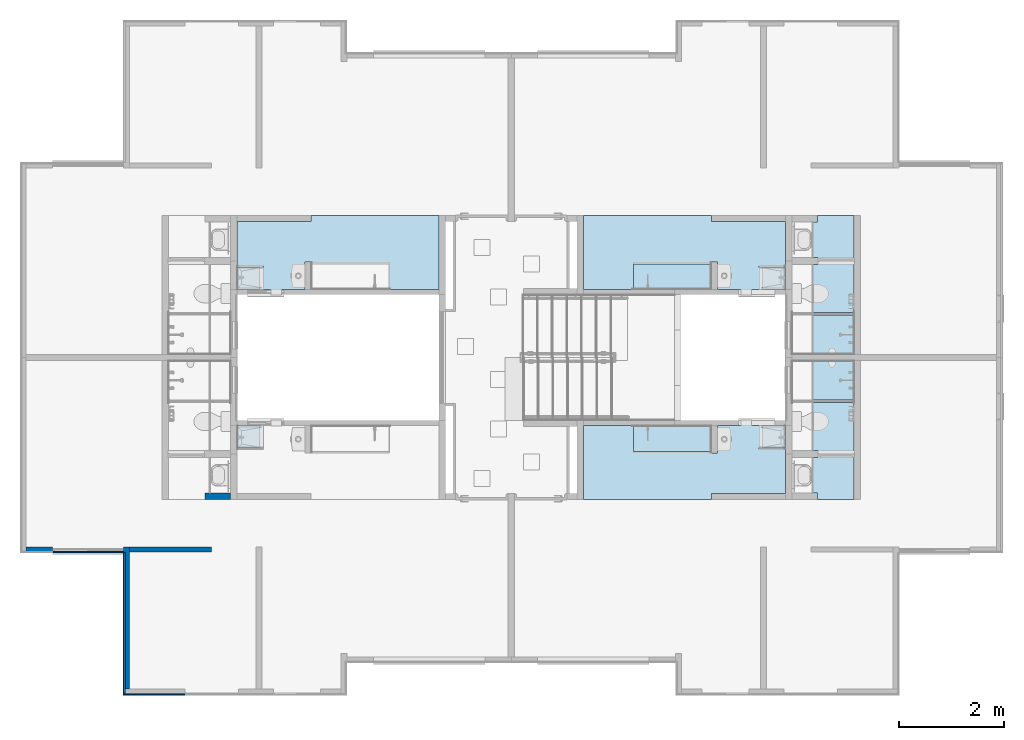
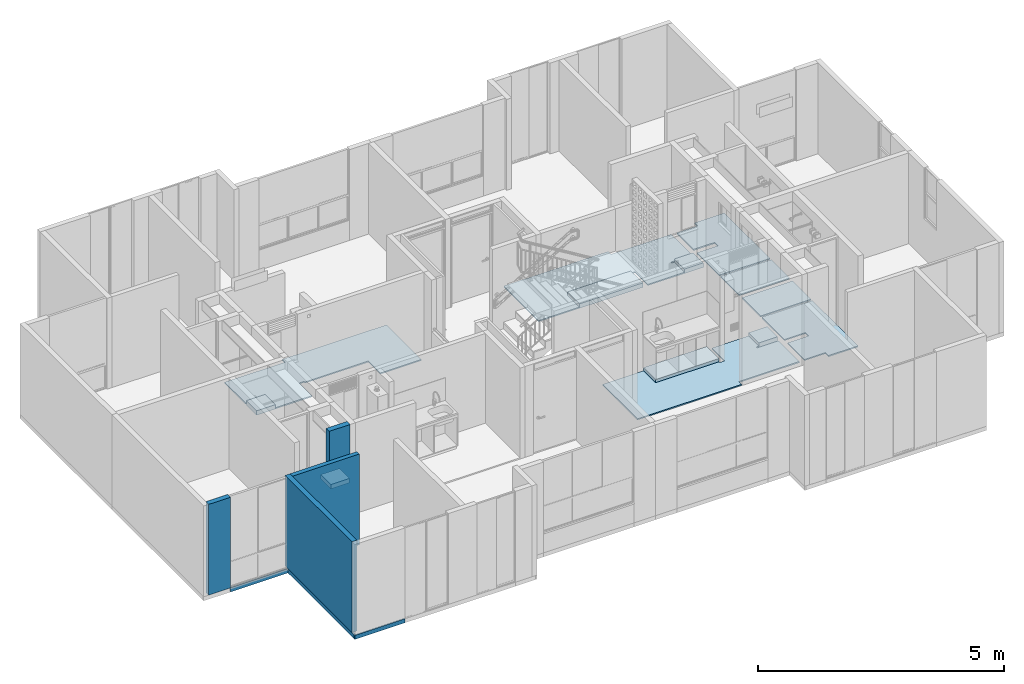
# One storey, part 3 of 48: 11 slabs, 7 walls.
"""IFC4 building model written with IfcOpenShell, lengths in metres."""

from ifc_helpers import new_model, entity, si_unit, converted_unit, derived_unit, direction, frame, origin, place, context, subcontext, project, spatial, indexed_curve, outline, extrude, material, constituent, constituent_set, type_object, element, save


model = new_model("IFC4")

# Units and contexts
model_context = context("Model", 3, precision=1e-05, world=origin(), true_north=direction((6.123031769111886e-17, 1.0)))
body_context = subcontext(model_context, "Body", "Model", "MODEL_VIEW")
ifc_project = project(units=[si_unit("LENGTHUNIT", "METRE"), si_unit("AREAUNIT", "SQUARE_METRE"), si_unit("VOLUMEUNIT", "CUBIC_METRE"), converted_unit("PLANEANGLEUNIT", "DEGREE", entity("IfcRatioMeasure", 0.017453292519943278), si_unit("PLANEANGLEUNIT", "RADIAN"), dimensions=[0, 0, 0, 0, 0, 0, 0]), si_unit("MASSUNIT", "GRAM", prefix="KILO"), derived_unit("MASSDENSITYUNIT", [(si_unit("MASSUNIT", "GRAM", prefix="KILO"), 1), (si_unit("LENGTHUNIT", "METRE"), -3)]), derived_unit("IONCONCENTRATIONUNIT", [(si_unit("MASSUNIT", "GRAM", prefix="KILO"), 1), (si_unit("LENGTHUNIT", "METRE"), -3)]), derived_unit("MOMENTOFINERTIAUNIT", [(si_unit("LENGTHUNIT", "METRE"), 4)]), si_unit("TIMEUNIT", "SECOND"), si_unit("FREQUENCYUNIT", "HERTZ"), si_unit("THERMODYNAMICTEMPERATUREUNIT", "DEGREE_CELSIUS"), derived_unit("THERMALTRANSMITTANCEUNIT", [(si_unit("MASSUNIT", "GRAM", prefix="KILO"), 1), (si_unit("THERMODYNAMICTEMPERATUREUNIT", "KELVIN"), -1), (si_unit("TIMEUNIT", "SECOND"), -3)]), derived_unit("THERMALCONDUCTANCEUNIT", [(si_unit("MASSUNIT", "GRAM", prefix="KILO"), 1), (si_unit("THERMODYNAMICTEMPERATUREUNIT", "KELVIN"), -1), (si_unit("TIMEUNIT", "SECOND"), -3), (si_unit("LENGTHUNIT", "METRE"), 1)]), derived_unit("VOLUMETRICFLOWRATEUNIT", [(si_unit("LENGTHUNIT", "METRE"), 3), (si_unit("TIMEUNIT", "SECOND"), -1)]), derived_unit("MASSFLOWRATEUNIT", [(si_unit("MASSUNIT", "GRAM", prefix="KILO"), 1), (si_unit("TIMEUNIT", "SECOND"), -1)]), derived_unit("ROTATIONALFREQUENCYUNIT", [(si_unit("TIMEUNIT", "SECOND"), -1)]), si_unit("ELECTRICCURRENTUNIT", "AMPERE"), si_unit("ELECTRICVOLTAGEUNIT", "VOLT"), si_unit("POWERUNIT", "WATT"), si_unit("FORCEUNIT", "NEWTON", prefix="KILO"), si_unit("ILLUMINANCEUNIT", "LUX"), si_unit("LUMINOUSFLUXUNIT", "LUMEN"), si_unit("LUMINOUSINTENSITYUNIT", "CANDELA"), derived_unit("USERDEFINED", [(si_unit("MASSUNIT", "GRAM", prefix="KILO"), -1), (si_unit("LENGTHUNIT", "METRE"), -2), (si_unit("TIMEUNIT", "SECOND"), 3), (si_unit("LUMINOUSFLUXUNIT", "LUMEN"), 1)]), derived_unit("USERDEFINED", [(si_unit("MASSUNIT", "GRAM", prefix="KILO"), 1), (si_unit("TIMEUNIT", "SECOND"), -3), (si_unit("LENGTHUNIT", "METRE"), 3), (si_unit("ELECTRICCURRENTUNIT", "AMPERE"), -2)]), derived_unit("SOUNDPOWERUNIT", [(si_unit("MASSUNIT", "GRAM", prefix="KILO"), 1), (si_unit("TIMEUNIT", "SECOND"), -3), (si_unit("LENGTHUNIT", "METRE"), 2)]), derived_unit("SOUNDPRESSUREUNIT", [(si_unit("MASSUNIT", "GRAM", prefix="KILO"), 1), (si_unit("LENGTHUNIT", "METRE"), -1), (si_unit("TIMEUNIT", "SECOND"), -2)]), derived_unit("LINEARVELOCITYUNIT", [(si_unit("LENGTHUNIT", "METRE"), 1), (si_unit("TIMEUNIT", "SECOND"), -1)]), si_unit("PRESSUREUNIT", "PASCAL"), derived_unit("USERDEFINED", [(si_unit("MASSUNIT", "GRAM", prefix="KILO"), 1), (si_unit("LENGTHUNIT", "METRE"), -2), (si_unit("TIMEUNIT", "SECOND"), -2)]), derived_unit("LINEARFORCEUNIT", [(si_unit("MASSUNIT", "GRAM", prefix="KILO"), 1), (si_unit("TIMEUNIT", "SECOND"), -2)]), derived_unit("PLANARFORCEUNIT", [(si_unit("MASSUNIT", "GRAM", prefix="KILO"), 1), (si_unit("LENGTHUNIT", "METRE"), -1), (si_unit("TIMEUNIT", "SECOND"), -2)]), derived_unit("SPECIFICHEATCAPACITYUNIT", [(si_unit("THERMODYNAMICTEMPERATUREUNIT", "KELVIN"), -1), (si_unit("LENGTHUNIT", "METRE"), 2), (si_unit("TIMEUNIT", "SECOND"), -2)]), derived_unit("HEATINGVALUEUNIT", [(si_unit("LENGTHUNIT", "METRE"), 2), (si_unit("TIMEUNIT", "SECOND"), -2)]), derived_unit("VAPORPERMEABILITYUNIT", [(si_unit("LENGTHUNIT", "METRE"), -1), (si_unit("TIMEUNIT", "SECOND"), 1)]), derived_unit("DYNAMICVISCOSITYUNIT", [(si_unit("MASSUNIT", "GRAM", prefix="KILO"), 1), (si_unit("TIMEUNIT", "SECOND"), -1), (si_unit("LENGTHUNIT", "METRE"), -1)]), derived_unit("THERMALEXPANSIONCOEFFICIENTUNIT", [(si_unit("THERMODYNAMICTEMPERATUREUNIT", "KELVIN"), -1)]), derived_unit("MODULUSOFELASTICITYUNIT", [(si_unit("MASSUNIT", "GRAM", prefix="KILO"), 1), (si_unit("LENGTHUNIT", "METRE"), -1), (si_unit("TIMEUNIT", "SECOND"), -2)]), derived_unit("ISOTHERMALMOISTURECAPACITYUNIT", [(si_unit("LENGTHUNIT", "METRE"), 3), (si_unit("MASSUNIT", "GRAM", prefix="KILO"), -1)]), derived_unit("MOISTUREDIFFUSIVITYUNIT", [(si_unit("TIMEUNIT", "SECOND"), -1), (si_unit("LENGTHUNIT", "METRE"), 2)])], contexts=[model_context])

# Site, building, storey
site_placement = place(None, origin())
site = spatial("IfcSite", under=ifc_project, at=site_placement, Name="Default", CompositionType="ELEMENT")
building_placement = place(site_placement, origin())
building = spatial("IfcBuilding", under=site, at=building_placement, CompositionType="ELEMENT")
storey_placement = place(building_placement, frame((0.0, 0.0, 7.050000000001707)))
storey = spatial("IfcBuildingStorey", under=building, at=storey_placement, Name="Nivel 4", CompositionType="ELEMENT", Elevation=7.050000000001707)

# Slabs
ifc_material_1 = material(Name="Ceramica 0.45m x 0.45m gris", Category="Materials")
ifc_constituent_1 = constituent(ifc_material_1, Name="Ceramica 0.45m x 0.45m gris", Category="Materials")
ifc_material_2 = material(Name="Mortero de pega", Category="Materials")
ifc_constituent_2 = constituent(ifc_material_2, Name="Mortero de pega", Category="Materials")
ifc_constituent_set_1 = constituent_set(constituents=[ifc_constituent_1, ifc_constituent_2], Name="Floor:C2030.20 - 0.45 x 0.45 - Enchape cerámico - Mortero de Pega + Cerámica gris")
slab_type_1 = type_object("IfcSlabType", Name="Floor:C2030.20 - 0.45 x 0.45 - Enchape cerámico - Mortero de Pega + Cerámica gris", PredefinedType="FLOOR", material=ifc_constituent_set_1)
slab_1_placement = place(storey_placement, origin())
element("IfcSlab", 1, at=slab_1_placement, inside=storey, type_object=slab_type_1, material=ifc_constituent_set_1, Name="Floor:C2030.20 - 0.45 x 0.45 - Enchape cerámico - Mortero de Pega + Cerámica gris", ObjectType="Floor:C2030.20 - 0.45 x 0.45 - Enchape cerámico - Mortero de Pega + Cerámica gris", PredefinedType="FLOOR", context=body_context, shape_type="SweptSolid", body=[
    extrude(outline(indexed_curve([(0.06375012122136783, -0.725999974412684), (1.478750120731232, -0.725999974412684), (1.4787501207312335, 0.12399999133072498), (0.9787496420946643, 0.12399999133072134), (0.9787496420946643, 0.15799999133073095), (1.0387496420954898, 0.15799999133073), (1.03874964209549, 0.5734999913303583), (0.17875012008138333, 0.5734999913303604), (0.1787501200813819, 0.053999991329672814), (0.06375012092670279, 0.05399999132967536), (0.06375012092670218, 0.08399999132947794), (-1.4212498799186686, 0.08399999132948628), (-1.4212498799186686, 0.5734999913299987), (-2.3812498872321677, 0.5734999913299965), (-2.38124988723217, -0.8409999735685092), (0.06375012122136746, -0.8409999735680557), (0.06375012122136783, -0.725999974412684)], self_intersect=False)), frame((5.566250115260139, -4.5510000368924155, 0.01999999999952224), z_axis=(0.0, 0.0, 1.0), x_axis=(-1.0, 0.0, 0.0)), (0.0, 0.0, 1.0), 0.009999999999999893),
    extrude(outline(indexed_curve([(-0.8409999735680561, 0.06375012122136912), (-0.840999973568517, -2.381249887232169), (0.5734999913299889, -2.3812498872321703), (0.5734999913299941, -1.4212498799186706), (0.08399999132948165, -1.4212498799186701), (0.08399999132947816, 0.0637501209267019), (0.05399999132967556, 0.06375012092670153), (0.0539999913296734, 0.17875012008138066), (0.5734999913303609, 0.1787501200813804), (0.5734999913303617, 1.0387496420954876), (0.1579999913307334, 1.0387496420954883), (0.15799999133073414, 0.9787496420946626), (0.12399999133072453, 0.9787496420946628), (0.1239999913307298, 1.4787501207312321), (-0.7259999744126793, 1.4787501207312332), (-0.7259999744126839, 0.06375012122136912), (-0.8409999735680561, 0.06375012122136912)], self_intersect=False)), frame((5.5662501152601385, -4.5510000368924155, 0.0), z_axis=(0.0, 0.0, -1.0), x_axis=(0.0, -1.0, 0.0)), (0.0, 0.0, -1.0), 0.019999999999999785),
])
slab_2_placement = place(storey_placement, origin())
element("IfcSlab", 2, at=slab_2_placement, inside=storey, type_object=slab_type_1, material=ifc_constituent_set_1, Name="Floor:C2030.20 - 0.45 x 0.45 - Enchape cerámico - Mortero de Pega + Cerámica gris", ObjectType="Floor:C2030.20 - 0.45 x 0.45 - Enchape cerámico - Mortero de Pega + Cerámica gris", PredefinedType="FLOOR", context=body_context, shape_type="SweptSolid", body=[
    extrude(outline(indexed_curve([(-0.5924994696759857, -0.3749999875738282), (0.5924994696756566, -0.3749999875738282), (0.5924994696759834, 0.3749999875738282), (-0.5924994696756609, 0.3749999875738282), (-0.5924994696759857, -0.3749999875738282)], self_intersect=False)), frame((15.274999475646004, -5.9900000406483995, 0.01999999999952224)), (0.0, 0.0, 1.0), 0.009999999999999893),
    extrude(outline(indexed_curve([(0.19500000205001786, -0.43399957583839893), (1.1099999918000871, -0.43399957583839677), (1.1099999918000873, 0.750999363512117), (-0.7449999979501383, 0.7509993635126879), (-0.7449999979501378, 0.05600042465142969), (-0.6199999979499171, 0.056000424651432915), (-0.6199999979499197, -0.43399957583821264), (0.06000000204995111, -0.43399957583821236), (0.06000000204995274, 0.06099936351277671), (0.19500000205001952, 0.060999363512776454), (0.19500000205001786, -0.43399957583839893)], self_intersect=False)), frame((15.116499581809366, -4.455000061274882, 0.019999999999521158), z_axis=(0.0, 0.0, 1.0), x_axis=(0.0, -1.0, 0.0)), (0.0, 0.0, 1.0), 0.009999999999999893),
    extrude(outline(indexed_curve([(-1.1099999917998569, -0.7509993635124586), (0.7449999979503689, -0.7509993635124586), (0.7449999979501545, -0.056000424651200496), (0.6199999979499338, -0.05600042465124), (0.6199999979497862, 0.43399957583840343), (-0.06000000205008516, 0.43399957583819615), (-0.06000000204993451, -0.06099936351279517), (-0.1950000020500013, -0.06099936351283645), (-0.19500000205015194, 0.4339995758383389), (-1.109999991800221, 0.43399957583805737), (-1.1099999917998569, -0.7509993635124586)], self_intersect=False)), frame((15.116499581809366, -4.455000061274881, 0.0), z_axis=(0.0, 0.0, 1.0), x_axis=(0.0, 1.0, 0.0)), (0.0, 0.0, 1.0), 0.019999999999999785),
    extrude(outline(indexed_curve([(-0.5924994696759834, -0.3749999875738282), (0.5924994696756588, -0.3749999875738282), (0.5924994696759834, 0.3749999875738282), (-0.5924994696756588, 0.3749999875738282), (-0.5924994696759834, -0.3749999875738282)], self_intersect=False)), frame((15.274999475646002, -5.9900000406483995, 0.0)), (0.0, 0.0, 1.0), 0.019999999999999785),
])
slab_3_placement = place(storey_placement, origin())
element("IfcSlab", 3, at=slab_3_placement, inside=storey, type_object=slab_type_1, material=ifc_constituent_set_1, Name="Floor:C2030.20 - 0.45 x 0.45 - Enchape cerámico - Mortero de Pega + Cerámica gris", ObjectType="Floor:C2030.20 - 0.45 x 0.45 - Enchape cerámico - Mortero de Pega + Cerámica gris", PredefinedType="FLOOR", context=body_context, shape_type="SweptSolid", body=[
    extrude(outline(indexed_curve([(-0.06375012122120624, -0.8409999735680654), (2.381249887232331, -0.8409999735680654), (2.381249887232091, 0.5734999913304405), (1.4212498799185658, 0.5734999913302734), (1.4212498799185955, 0.08399999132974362), (-0.06375012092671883, 0.08399999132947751), (-0.06375012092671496, 0.05399999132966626), (-0.17875012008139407, 0.05399999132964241), (-0.17875012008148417, 0.5734999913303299), (-1.0387496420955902, 0.5734999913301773), (-1.0387496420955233, 0.15799999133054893), (-0.9787496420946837, 0.15799999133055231), (-0.9787496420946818, 0.12399999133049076), (-1.4787501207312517, 0.12399999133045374), (-1.4787501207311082, -0.7259999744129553), (-0.06375012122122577, -0.7259999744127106), (-0.06375012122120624, -0.8409999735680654)], self_intersect=False)), frame((13.078749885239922, -4.551000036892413, 0.01999999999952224), z_axis=(0.0, 0.0, 1.0), x_axis=(-1.0, 0.0, 0.0)), (0.0, 0.0, 1.0), 0.009999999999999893),
    extrude(outline(indexed_curve([(-0.06375012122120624, -0.8409999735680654), (2.381249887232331, -0.8409999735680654), (2.381249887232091, 0.5734999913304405), (1.4212498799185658, 0.5734999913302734), (1.4212498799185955, 0.08399999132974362), (-0.06375012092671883, 0.08399999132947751), (-0.0637501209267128, 0.05399999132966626), (-0.17875012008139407, 0.05399999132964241), (-0.17875012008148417, 0.5734999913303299), (-1.0387496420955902, 0.5734999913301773), (-1.0387496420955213, 0.15799999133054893), (-0.9787496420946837, 0.15799999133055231), (-0.9787496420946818, 0.12399999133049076), (-1.4787501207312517, 0.12399999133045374), (-1.478750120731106, -0.7259999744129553), (-0.06375012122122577, -0.7259999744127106), (-0.06375012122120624, -0.8409999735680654)], self_intersect=False)), frame((13.078749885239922, -4.551000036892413, 0.0), z_axis=(0.0, 0.0, 1.0), x_axis=(-1.0, 0.0, 0.0)), (0.0, 0.0, 1.0), 0.019999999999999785),
])
slab_4_placement = place(storey_placement, origin())
element("IfcSlab", 4, at=slab_4_placement, inside=storey, type_object=slab_type_1, material=ifc_constituent_set_1, Name="Floor:C2030.20 - 0.45 x 0.45 - Enchape cerámico - Mortero de Pega + Cerámica gris", ObjectType="Floor:C2030.20 - 0.45 x 0.45 - Enchape cerámico - Mortero de Pega + Cerámica gris", PredefinedType="FLOOR", context=body_context, shape_type="SweptSolid", body=[
    extrude(outline(indexed_curve([(-0.5924994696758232, -0.3749999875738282), (0.5924994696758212, -0.3749999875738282), (0.5924994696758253, 0.3749999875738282), (-0.5924994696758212, 0.3749999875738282), (-0.5924994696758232, -0.3749999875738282)], self_intersect=False)), frame((15.274999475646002, -6.860000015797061, 0.01999999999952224)), (0.0, 0.0, 1.0), 0.009999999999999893),
    extrude(outline(indexed_curve([(-0.1950000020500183, -0.06099936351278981), (-0.19500000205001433, 0.4339995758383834), (-1.1099999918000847, 0.4339995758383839), (-1.1099999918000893, -0.75099936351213), (0.7449999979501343, -0.7509993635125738), (0.7449999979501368, -0.056000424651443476), (0.6199999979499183, -0.0560004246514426), (0.6199999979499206, 0.4339995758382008), (-0.06000000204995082, 0.4339995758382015), (-0.060000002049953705, -0.06099936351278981), (-0.1950000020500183, -0.06099936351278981)], self_intersect=False)), frame((15.116499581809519, -8.394999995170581, 0.019999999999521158), z_axis=(0.0, 0.0, -1.0), x_axis=(0.0, -1.0, 0.0)), (0.0, 0.0, -1.0), 0.009999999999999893),
    extrude(outline(indexed_curve([(-0.7509993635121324, -1.1099999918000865), (0.43399957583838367, -1.1099999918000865), (0.4339995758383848, -0.1950000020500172), (-0.06099936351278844, -0.19500000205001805), (-0.060999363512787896, -0.06000000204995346), (0.43399957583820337, -0.06000000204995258), (0.43399957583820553, 0.6199999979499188), (-0.05600042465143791, 0.6199999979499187), (-0.056000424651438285, 0.744999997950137), (-0.7509993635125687, 0.7449999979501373), (-0.7509993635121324, -1.1099999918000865)], self_intersect=False)), frame((15.11649958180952, -8.394999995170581, 0.0), z_axis=(0.0, 0.0, 1.0), x_axis=(-1.0, 0.0, 0.0)), (0.0, 0.0, 1.0), 0.019999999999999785),
    extrude(outline(indexed_curve([(-0.3749999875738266, -0.5924994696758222), (0.3749999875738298, -0.5924994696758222), (0.3749999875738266, 0.5924994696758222), (-0.3749999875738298, 0.5924994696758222), (-0.3749999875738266, -0.5924994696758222)], self_intersect=False)), frame((15.274999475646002, -6.860000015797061, 0.0), z_axis=(0.0, 0.0, 1.0), x_axis=(0.0, -1.0, 0.0)), (0.0, 0.0, 1.0), 0.019999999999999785),
])
slab_5_placement = place(storey_placement, origin())
element("IfcSlab", 5, at=slab_5_placement, inside=storey, type_object=slab_type_1, material=ifc_constituent_set_1, Name="Floor:C2030.20 - 0.45 x 0.45 - Enchape cerámico - Mortero de Pega + Cerámica gris", ObjectType="Floor:C2030.20 - 0.45 x 0.45 - Enchape cerámico - Mortero de Pega + Cerámica gris", PredefinedType="FLOOR", context=body_context, shape_type="SweptSolid", body=[
    extrude(outline(indexed_curve([(0.06375012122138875, -0.725999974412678), (1.478750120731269, -0.725999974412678), (1.478750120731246, 0.12399999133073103), (0.9787496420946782, 0.12399999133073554), (0.9787496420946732, 0.15799999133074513), (1.0387496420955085, 0.15799999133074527), (1.0387496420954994, 0.5734999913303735), (0.1787501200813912, 0.5734999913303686), (0.17875012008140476, 0.053999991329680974), (0.06375012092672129, 0.0539999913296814), (0.06375012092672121, 0.083999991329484), (-1.4212498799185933, 0.08399999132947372), (-1.4212498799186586, 0.5734999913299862), (-2.3812498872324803, 0.5734999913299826), (-2.3812498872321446, -0.8409999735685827), (0.0637501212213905, -0.8409999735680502), (0.06375012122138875, -0.725999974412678)], self_intersect=False)), frame((13.078749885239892, -8.299000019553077, 0.01999999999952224)), (0.0, 0.0, 1.0), 0.009999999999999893),
    extrude(outline(indexed_curve([(-0.8409999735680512, 0.06375012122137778), (-0.8409999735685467, -2.381249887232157), (0.5734999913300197, -2.3812498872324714), (0.5734999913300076, -1.42124987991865), (0.08399999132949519, -1.421249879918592), (0.08399999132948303, 0.06375012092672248), (0.05399999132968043, 0.06375012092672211), (0.05399999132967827, 0.17875012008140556), (0.5734999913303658, 0.17875012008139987), (0.5734999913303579, 1.038749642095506), (0.1579999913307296, 1.038749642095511), (0.15799999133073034, 0.9787496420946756), (0.12399999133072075, 0.9787496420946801), (0.12399999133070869, 1.478750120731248), (-0.7259999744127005, 1.478750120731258), (-0.725999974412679, 0.06375012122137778), (-0.8409999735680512, 0.06375012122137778)], self_intersect=False)), frame((13.078749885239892, -8.299000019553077, 0.0), z_axis=(0.0, 0.0, -1.0), x_axis=(0.0, 1.0, 0.0)), (0.0, 0.0, -1.0), 0.019999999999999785),
])
ifc_material_3 = material(Name="Concreto (Aire)", Category="Materials")
slab_type_2 = type_object("IfcSlabType", Name="Floor:B1010 - 0.10m - Poyo - Concreto", PredefinedType="FLOOR", material=ifc_material_3)
slab_6_placement = place(storey_placement, origin())
element("IfcSlab", 6, at=slab_6_placement, inside=storey, type_object=slab_type_2, material=ifc_material_3, Name="Floor:B1010 - 0.10m - Poyo - Concreto", ObjectType="Floor:B1010 - 0.10m - Poyo - Concreto", PredefinedType="FLOOR", context=body_context, shape_type="SweptSolid", body=[
    extrude(outline(indexed_curve([(-0.24475000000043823, -0.7425000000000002), (0.2447500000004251, -0.7425000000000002), (0.24475000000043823, 0.7425000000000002), (-0.2447500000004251, 0.7425000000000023), (-0.24475000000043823, -0.7425000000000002)], self_intersect=False)), frame((12.400000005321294, -4.87975002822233, 0.10999999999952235), z_axis=(0.0, 0.0, -1.0), x_axis=(0.0, 1.0, 0.0)), (0.0, 0.0, 1.0), 0.1099999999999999),
])
slab_7_placement = place(storey_placement, origin())
element("IfcSlab", 7, at=slab_7_placement, inside=storey, type_object=slab_type_2, material=ifc_material_3, Name="Floor:B1010 - 0.10m - Poyo - Concreto", ObjectType="Floor:B1010 - 0.10m - Poyo - Concreto", PredefinedType="FLOOR", context=body_context, shape_type="SweptSolid", body=[
    extrude(outline(indexed_curve([(-0.2447500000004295, -0.7425000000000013), (0.2447500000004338, -0.7425000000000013), (0.24475000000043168, 0.7425000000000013), (-0.2447500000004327, 0.742499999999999), (-0.2447500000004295, -0.7425000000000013)], self_intersect=False)), frame((12.400000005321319, -7.9702500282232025, 0.10999999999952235), z_axis=(0.0, 0.0, -1.0), x_axis=(0.0, 1.0, 0.0)), (0.0, 0.0, 1.0), 0.1099999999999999),
])
ifc_constituent_3 = constituent(ifc_material_1, Name="Ceramica 0.45m x 0.45m gris", Category="Materials")
ifc_constituent_4 = constituent(ifc_material_3, Name="Concreto (Aire)", Category="Materials")
ifc_constituent_set_2 = constituent_set(constituents=[ifc_constituent_3, ifc_constituent_4], Name="Floor:B1010 - 0.10m - Poyo - Concreto+ cerámica")
slab_type_3 = type_object("IfcSlabType", Name="Floor:B1010 - 0.10m - Poyo - Concreto+ cerámica", PredefinedType="FLOOR", material=ifc_constituent_set_2)
slab_8_placement = place(storey_placement, origin())
element("IfcSlab", 8, at=slab_8_placement, inside=storey, type_object=slab_type_3, material=ifc_constituent_set_2, Name="Floor:B1010 - 0.10m - Poyo - Concreto+ cerámica", ObjectType="Floor:B1010 - 0.10m - Poyo - Concreto+ cerámica", PredefinedType="FLOOR", context=body_context, shape_type="SweptSolid", body=[
    extrude(outline(indexed_curve([(-0.20774999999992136, -0.220000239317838), (0.20774999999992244, -0.220000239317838), (0.20774999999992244, 0.22000023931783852), (-0.20774999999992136, 0.220000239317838), (-0.20774999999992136, -0.220000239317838)], self_intersect=False)), frame((4.307500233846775, -4.916750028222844, 0.09999999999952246), z_axis=(0.0, 0.0, 1.0), x_axis=(0.0, -1.0, 0.0)), (0.0, 0.0, 1.0), 0.009999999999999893),
    extrude(outline(indexed_curve([(-0.220000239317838, -0.20774999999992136), (0.22000023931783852, -0.20774999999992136), (0.22000023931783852, 0.20774999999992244), (-0.220000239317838, 0.20774999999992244), (-0.220000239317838, -0.20774999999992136)], self_intersect=False)), frame((4.307500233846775, -4.916750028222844, 0.0), z_axis=(0.0, 0.0, 1.0), x_axis=(-1.0, 0.0, 0.0)), (0.0, 0.0, 1.0), 0.1),
])
slab_9_placement = place(storey_placement, origin())
element("IfcSlab", 9, at=slab_9_placement, inside=storey, type_object=slab_type_3, material=ifc_constituent_set_2, Name="Floor:B1010 - 0.10m - Poyo - Concreto+ cerámica", ObjectType="Floor:B1010 - 0.10m - Poyo - Concreto+ cerámica", PredefinedType="FLOOR", context=body_context, shape_type="SweptSolid", body=[
    extrude(outline(indexed_curve([(-0.2077499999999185, -0.220000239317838), (0.20774999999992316, -0.220000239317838), (0.20774999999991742, 0.22000023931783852), (-0.20774999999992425, 0.22000023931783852), (-0.2077499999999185, -0.220000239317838)], self_intersect=False)), frame((4.307500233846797, -7.933250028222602, 0.09999999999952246), z_axis=(0.0, 0.0, 1.0), x_axis=(0.0, 1.0, 0.0)), (0.0, 0.0, 1.0), 0.009999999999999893),
    extrude(outline(indexed_curve([(-0.2077499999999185, -0.220000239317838), (0.20774999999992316, -0.220000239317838), (0.20774999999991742, 0.22000023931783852), (-0.20774999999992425, 0.22000023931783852), (-0.2077499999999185, -0.220000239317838)], self_intersect=False)), frame((4.307500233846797, -7.933250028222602, 0.0), z_axis=(0.0, 0.0, 1.0), x_axis=(0.0, 1.0, 0.0)), (0.0, 0.0, 1.0), 0.1),
])
slab_10_placement = place(storey_placement, origin())
element("IfcSlab", 10, at=slab_10_placement, inside=storey, type_object=slab_type_3, material=ifc_constituent_set_2, Name="Floor:B1010 - 0.10m - Poyo - Concreto+ cerámica", ObjectType="Floor:B1010 - 0.10m - Poyo - Concreto+ cerámica", PredefinedType="FLOOR", context=body_context, shape_type="SweptSolid", body=[
    extrude(outline(indexed_curve([(-0.20774999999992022, -0.220000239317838), (0.20774999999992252, -0.220000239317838), (0.20774999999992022, 0.220000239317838), (-0.20774999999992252, 0.220000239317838), (-0.20774999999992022, -0.220000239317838)], self_intersect=False)), frame((14.33749976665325, -4.916750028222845, 0.09999999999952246), z_axis=(0.0, 0.0, 1.0), x_axis=(0.0, -1.0, 0.0)), (0.0, 0.0, 1.0), 0.009999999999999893),
    extrude(outline(indexed_curve([(-0.20774999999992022, -0.220000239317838), (0.20774999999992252, -0.220000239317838), (0.20774999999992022, 0.220000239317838), (-0.20774999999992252, 0.220000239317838), (-0.20774999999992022, -0.220000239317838)], self_intersect=False)), frame((14.33749976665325, -4.916750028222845, 0.0), z_axis=(0.0, 0.0, 1.0), x_axis=(0.0, -1.0, 0.0)), (0.0, 0.0, 1.0), 0.1),
])
slab_11_placement = place(storey_placement, origin())
element("IfcSlab", 11, at=slab_11_placement, inside=storey, type_object=slab_type_3, material=ifc_constituent_set_2, Name="Floor:B1010 - 0.10m - Poyo - Concreto+ cerámica", ObjectType="Floor:B1010 - 0.10m - Poyo - Concreto+ cerámica", PredefinedType="FLOOR", context=body_context, shape_type="SweptSolid", body=[
    extrude(outline(indexed_curve([(-0.2077499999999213, -0.22000023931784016), (0.20774999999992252, -0.22000023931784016), (0.20774999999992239, 0.22000023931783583), (-0.20774999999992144, 0.22000023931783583), (-0.2077499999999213, -0.22000023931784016)], self_intersect=False)), frame((14.337499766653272, -7.9332500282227, 0.09999999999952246), z_axis=(0.0, 0.0, 1.0), x_axis=(0.0, 1.0, 0.0)), (0.0, 0.0, 1.0), 0.009999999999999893),
    extrude(outline(indexed_curve([(-0.22000023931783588, -0.20774999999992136), (0.22000023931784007, -0.20774999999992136), (0.2200002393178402, 0.20774999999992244), (-0.22000023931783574, 0.20774999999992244), (-0.22000023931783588, -0.20774999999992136)], self_intersect=False)), frame((14.337499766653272, -7.9332500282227, 0.0)), (0.0, 0.0, 1.0), 0.1),
])

# Walls
ifc_material_4 = material(Name="Ladrillo claro (Aire)", Category="Materials")
wall_type_1 = type_object("IfcWallType", Name="Basic Wall:B2010 - 0.115m - Muro exterior en mampostería - Ladrillo", PredefinedType="STANDARD")
wall_1_placement = place(storey_placement, frame((1.9749999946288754, -10.04000002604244, 0.0), z_axis=(0.0, 0.0, 1.0), x_axis=(0.0, -1.0, 0.0)))
element("IfcWall", 12, at=wall_1_placement, inside=storey, type_object=wall_type_1, material=ifc_material_4, Name="Basic Wall:B2010 - 0.115m - Muro exterior en mampostería - Ladrillo", ObjectType="Basic Wall:B2010 - 0.115m - Muro exterior en mampostería - Ladrillo", PredefinedType="NOTDEFINED", context=body_context, shape_type="SweptSolid", body=[
    extrude(outline(indexed_curve([(2.7150000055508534, 0.057499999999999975), (2.799198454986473e-16, 0.057499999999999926), (-2.799198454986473e-16, -0.057499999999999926), (2.715000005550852, -0.05749999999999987), (2.7150000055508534, 0.057499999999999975)], self_intersect=False)), origin(), (0.0, 0.0, 1.0), 2.2500000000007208),
])
ifc_material_5 = material(Name="LADRILLO CLARO", Category="Materials")
wall_type_2 = type_object("IfcWallType", Name="Basic Wall:B2010 - 0.115m - ME mampostería no estructural - Ladrillo", PredefinedType="STANDARD")
wall_2_placement = place(storey_placement, frame((0.057499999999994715, -10.097500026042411, 0.0)))
element("IfcWall", 13, at=wall_2_placement, inside=storey, type_object=wall_type_2, material=ifc_material_5, Name="Basic Wall:B2010 - 0.115m - ME mampostería no estructural - Ladrillo", ObjectType="Basic Wall:B2010 - 0.115m - ME mampostería no estructural - Ladrillo", PredefinedType="NOTDEFINED", context=body_context, shape_type="SweptSolid", body=[
    extrude(outline(indexed_curve([(0.5099999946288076, 0.057499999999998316), (-1.1590771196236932e-18, 0.057499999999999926), (1.1590771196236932e-18, -0.057499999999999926), (0.5099999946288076, -0.05750000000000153), (0.5099999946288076, 0.057499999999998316)], self_intersect=False)), origin(), (0.0, 0.0, 1.0), 2.2500000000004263),
])
wall_type_3 = type_object("IfcWallType", Name="Basic Wall:B2010 - 0.10m - Muro interior en concreto", PredefinedType="STANDARD")
wall_3_placement = place(storey_placement, frame((2.032499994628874, -10.090000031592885, 0.0)))
element("IfcWall", 14, at=wall_3_placement, inside=storey, type_object=wall_type_3, material=ifc_material_3, Name="Basic Wall:B2010 - 0.10m - Muro interior en concreto", ObjectType="Basic Wall:B2010 - 0.10m - Muro interior en concreto", PredefinedType="NOTDEFINED", context=body_context, shape_type="SweptSolid", body=[
    extrude(outline(indexed_curve([(1.5699999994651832, 0.050000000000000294), (-5.230813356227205e-17, 0.04999999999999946), (5.230813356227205e-17, -0.04999999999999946), (1.5699999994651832, -0.049999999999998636), (1.5699999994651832, 0.050000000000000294)], self_intersect=False)), origin(), (0.0, 0.0, 1.0), 2.2499999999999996),
])
ifc_material_6 = material(Name="Pañete", Category="Materials")
ifc_constituent_5 = constituent(ifc_material_6, Name="Pañete", Category="Materials")
ifc_constituent_6 = constituent(ifc_material_4, Name="Ladrillo claro (Aire)", Category="Materials")
ifc_constituent_set_3 = constituent_set(constituents=[ifc_constituent_5, ifc_constituent_6], Name="Basic Wall:B2010 - 0.115m - Muro interior en mampostería - Ladrillo + Pañete")
wall_type_4 = type_object("IfcWallType", Name="Basic Wall:B2010 - 0.115m - Muro interior en mampostería - Ladrillo + Pañete", PredefinedType="STANDARD", material=ifc_constituent_set_3)
wall_4_placement = place(storey_placement, frame((3.4724999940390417, -9.077499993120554, 0.0)))
element("IfcWall", 15, at=wall_4_placement, inside=storey, type_object=wall_type_4, material=ifc_constituent_set_3, Name="Basic Wall:B2010 - 0.115m - Muro interior en mampostería - Ladrillo + Pañete", ObjectType="Basic Wall:B2010 - 0.115m - Muro interior en mampostería - Ladrillo + Pañete", PredefinedType="NOTDEFINED", context=body_context, shape_type="SweptSolid", body=[
    extrude(outline(indexed_curve([(-0.004999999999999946, -0.24500000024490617), (0.004999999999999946, -0.24500000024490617), (0.005000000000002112, 0.24500000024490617), (-0.004999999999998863, 0.24500000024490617), (-0.004999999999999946, -0.24500000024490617)], self_intersect=False)), frame((0.24500000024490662, 0.057499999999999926, 0.0), z_axis=(0.0, 0.0, 1.0), x_axis=(0.0, -1.0, 0.0)), (0.0, 0.0, 1.0), 2.2500000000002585),
    extrude(outline(indexed_curve([(-0.057499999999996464, -0.2450000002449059), (0.0575000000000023, -0.2450000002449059), (0.057499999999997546, 0.24500000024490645), (-0.0575000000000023, 0.24500000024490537), (-0.057499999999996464, -0.2450000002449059)], self_intersect=False)), frame((0.24500000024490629, -0.005000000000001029, 0.0), z_axis=(0.0, 0.0, 1.0), x_axis=(0.0, 1.0, 0.0)), (0.0, 0.0, 1.0), 2.2500000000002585),
])
wall_type_5 = type_object("IfcWallType", Name="Basic Wall:B2010 - 0.03m - ME enchape  no estructural - Ladrillo", PredefinedType="STANDARD")
wall_5_placement = place(storey_placement, frame((1.9324999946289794, -12.84000003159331, -0.10000000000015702), z_axis=(0.0, 0.0, 1.0), x_axis=(0.0, 1.0, 0.0)))
element("IfcWall", 16, at=wall_5_placement, inside=storey, type_object=wall_type_5, material=ifc_material_5, Name="Basic Wall:B2010 - 0.03m - ME enchape  no estructural - Ladrillo", ObjectType="Basic Wall:B2010 - 0.03m - ME enchape  no estructural - Ladrillo", PredefinedType="NOTDEFINED", context=body_context, shape_type="SweptSolid", body=[
    extrude(outline(indexed_curve([(2.6836602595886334, 0.015000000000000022), (2.4689444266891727e-17, 0.015000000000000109), (-2.4689444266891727e-17, -0.015000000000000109), (2.6836602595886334, -0.015000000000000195), (2.6836602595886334, 0.015000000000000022)], self_intersect=False)), origin(), (0.0, 0.0, 1.0), 0.09999999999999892),
])
wall_6_placement = place(storey_placement, frame((3.0924999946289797, -12.855000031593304, -0.10000000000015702), z_axis=(0.0, 0.0, 1.0), x_axis=(-1.0, 0.0, 0.0)))
element("IfcWall", 17, at=wall_6_placement, inside=storey, type_object=wall_type_5, material=ifc_material_5, Name="Basic Wall:B2010 - 0.03m - ME enchape  no estructural - Ladrillo", ObjectType="Basic Wall:B2010 - 0.03m - ME enchape  no estructural - Ladrillo", PredefinedType="NOTDEFINED", context=body_context, shape_type="SweptSolid", body=[
    extrude(outline(indexed_curve([(1.1750000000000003, 0.015000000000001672), (4.570130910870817e-17, 0.015000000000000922), (-4.570130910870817e-17, -0.015000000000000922), (1.1750000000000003, -0.015000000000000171), (1.1750000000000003, 0.015000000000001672)], self_intersect=False)), origin(), (0.0, 0.0, 1.0), 0.09999999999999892),
])
wall_7_placement = place(storey_placement, frame((0.5674999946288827, -10.140000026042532, -0.10000000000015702)))
element("IfcWall", 18, at=wall_7_placement, inside=storey, type_object=wall_type_5, material=ifc_material_5, Name="Basic Wall:B2010 - 0.03m - ME enchape  no estructural - Ladrillo", ObjectType="Basic Wall:B2010 - 0.03m - ME enchape  no estructural - Ladrillo", PredefinedType="NOTDEFINED", context=body_context, shape_type="SweptSolid", body=[
    extrude(outline(indexed_curve([(1.3500000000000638, 0.015000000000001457), (-3.150138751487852e-17, 0.015000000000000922), (3.150138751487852e-17, -0.015000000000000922), (1.3500000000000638, -0.015000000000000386), (1.3500000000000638, 0.015000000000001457)], self_intersect=False)), origin(), (0.0, 0.0, 1.0), 0.09999999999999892),
])

save(model, "model.ifc")
